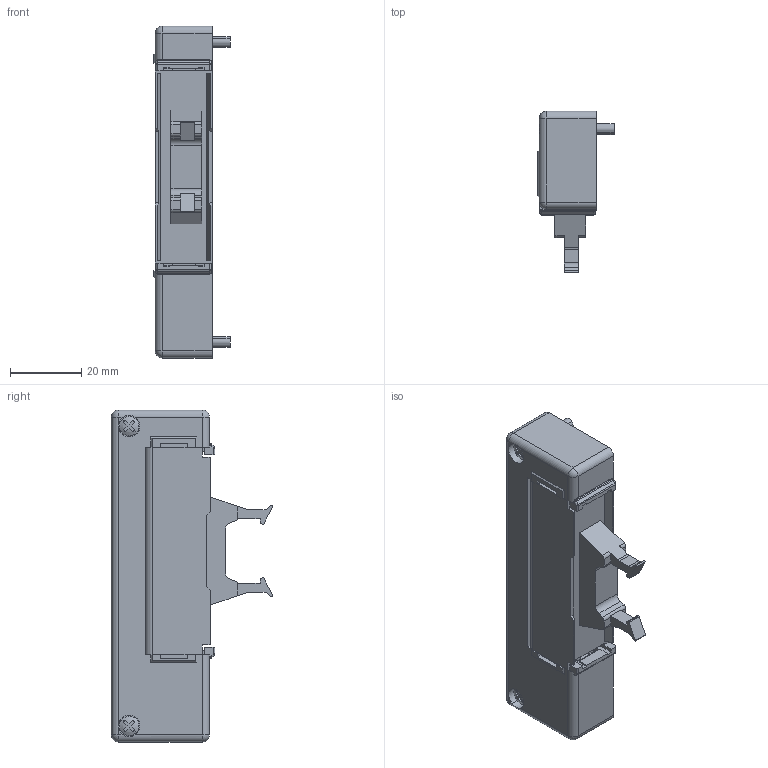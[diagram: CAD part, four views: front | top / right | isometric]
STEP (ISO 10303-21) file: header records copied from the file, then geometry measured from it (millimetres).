
FILE_DESCRIPTION( (''), '2;1');
FILE_NAME ('CVICAD32.25716.FZX-F10xN_10577.stp','2020-09-09T09:19:44',(''),(''),'spGate 12.6.6','','');
FILE_SCHEMA (('AUTOMOTIVE_DESIGN'));
Length unit declared in the file: millimetre
Products named in the file (3): Assembly; CVICAD32-prt0; CVICAD32-prt1
Assembly tree (2 placements, depth 2):
  Assembly
    CVICAD32-prt0
    CVICAD32-prt1
Bounding box: 21.4 x 45.2 x 93 mm (x, y, z)
Volume: 35512.6 mm3; surface area: 14357.3 mm2
Topology: 2 solids, 2 shells, 327 faces, 952 edges, 610 vertices
Faces by surface type: plane 225, cylinder 77, sphere 20, bspline 5
Entity records: 18088 total; most frequent: CARTESIAN_POINT 2093, ORIENTED_EDGE 1872, DIRECTION 1764, COLOUR_RGB 1265, PRESENTATION_STYLE_ASSIGNMENT 1265, STYLED_ITEM 1265, EDGE_CURVE 936, DRAUGHTING_PRE_DEFINED_CURVE_FONT 936
